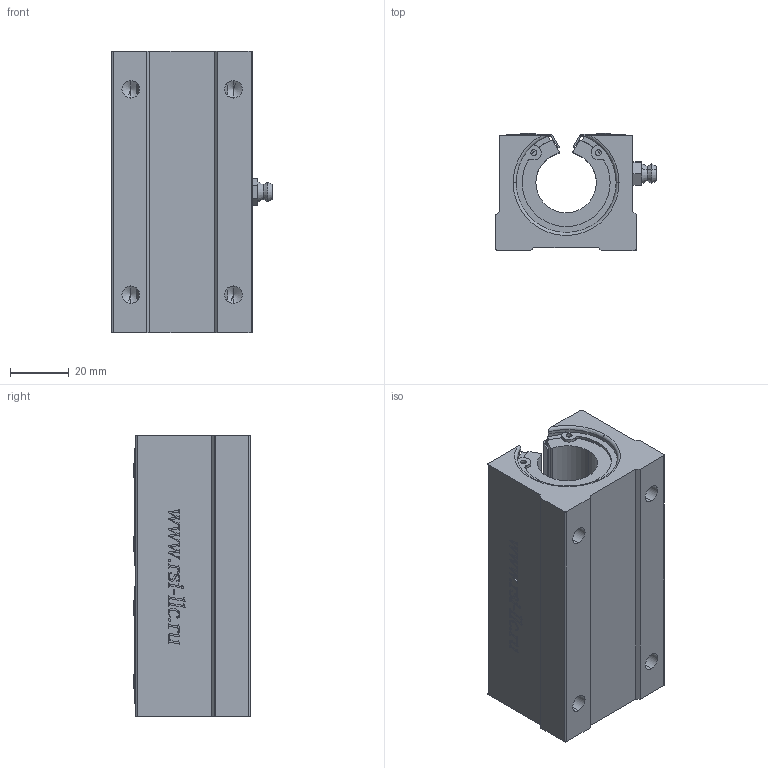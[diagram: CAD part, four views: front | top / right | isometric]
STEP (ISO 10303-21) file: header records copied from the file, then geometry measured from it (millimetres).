
FILE_DESCRIPTION (( 'STEP AP214' ), '1' );
FILE_NAME ('SBR20LUU.STEP', '2020-10-05T11:35:00', ( '' ), ( '' ), 'SwSTEP 2.0', 'SolidWorks 2018', '' );
FILE_SCHEMA (( 'AUTOMOTIVE_DESIGN' ));
Length unit declared in the file: millimetre
Products named in the file (8): SBR20LUU-07_1; SBR20LUU-06; SBR20LUU-05; SBR20LUU-04_5å4,5; SBR20LUU-03; SBR20LUU-02; SBR20LUU-01; SBR20LUU
Assembly tree (22 placements, depth 2):
  SBR20LUU
    SBR20LUU-01
    SBR20LUU-02  x2
    SBR20LUU-03  x2
    SBR20LUU-04_5å4,5
    SBR20LUU-05  x4
    SBR20LUU-06  x4
    SBR20LUU-07_1  x8
Bounding box: 54.75 x 39.75 x 96 mm (x, y, z)
Volume: 129212.9 mm3; surface area: 68835.4 mm2
Topology: 22 solids, 22 shells, 758 faces, 1998 edges, 1300 vertices
Faces by surface type: plane 382, cylinder 204, bspline 108, cone 58, torus 6
Entity records: 23169 total; most frequent: CARTESIAN_POINT 8408, ORIENTED_EDGE 2608, DIRECTION 2048, EDGE_CURVE 1304, VERTEX_POINT 860, LINE 804, VECTOR 804, AXIS2_PLACEMENT_3D 622
